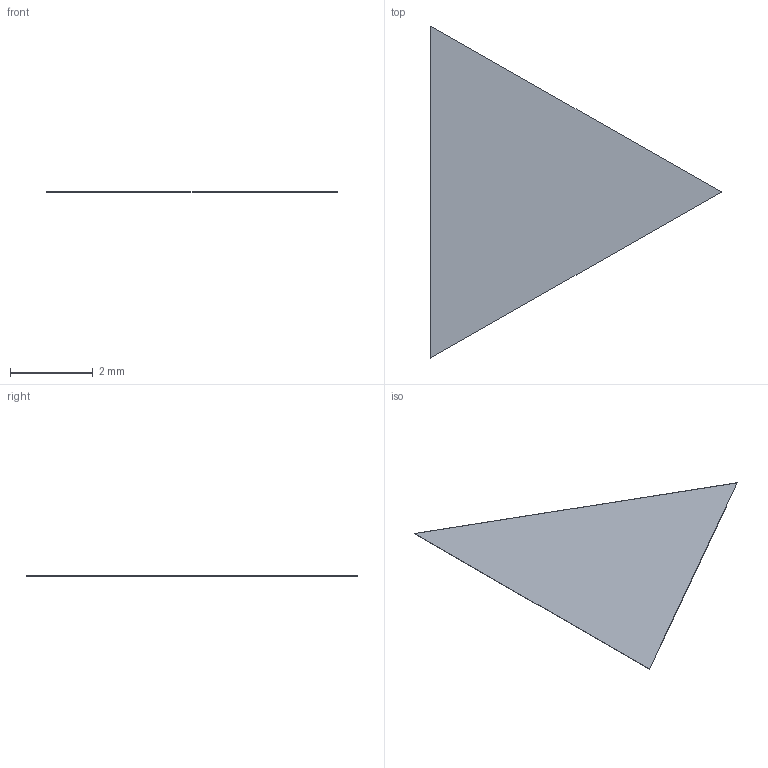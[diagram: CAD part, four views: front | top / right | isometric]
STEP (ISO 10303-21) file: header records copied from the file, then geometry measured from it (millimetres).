
FILE_DESCRIPTION(('Open CASCADE Model'),'2;1');
FILE_NAME('Open CASCADE Shape Model','2026-09-04T20:36:25',('Author'),( 'Open CASCADE'),'Open CASCADE STEP processor 7.7','Open CASCADE 7.7' ,'Unknown');
FILE_SCHEMA(('AUTOMOTIVE_DESIGN { 1 0 10303 214 1 1 1 1 }'));
Length unit declared in the file: millimetre
Products named in the file (1): Open CASCADE STEP translator 7.7 3
Bounding box: 7 x 8 x 0.01 mm (x, y, z)
Volume: 0.2 mm3; surface area: 56.2 mm2
Topology: 1 solids, 1 shells, 5 faces, 9 edges, 6 vertices
Faces by surface type: plane 5
Entity records: 250 total; most frequent: CARTESIAN_POINT 39, DIRECTION 39, LINE 27, VECTOR 27, ORIENTED_EDGE 18, PCURVE 18, DEFINITIONAL_REPRESENTATION 18, EDGE_CURVE 9
